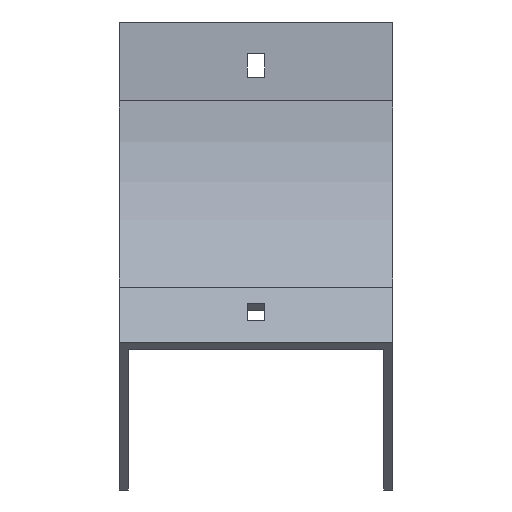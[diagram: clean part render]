
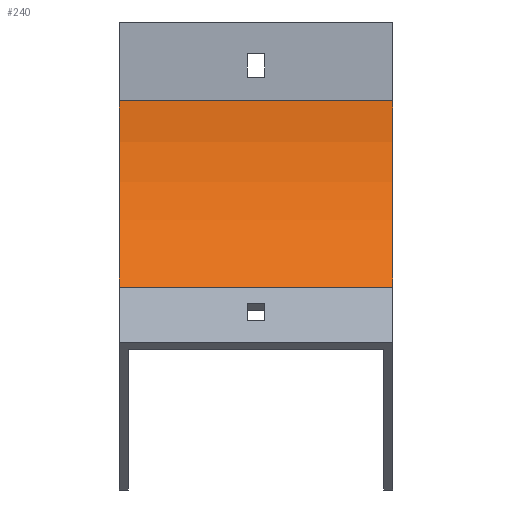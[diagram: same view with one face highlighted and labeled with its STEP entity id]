
A CAD part, front view. The second image highlights one B-rep face of the part: STEP entity #240.
In plain terms, the highlighted cylindrical face has radius 100 mm (diameter 200 mm), a partial arc.
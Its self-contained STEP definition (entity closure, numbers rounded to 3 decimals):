
#202 = DIRECTION ( 'NONE',  ( -1., 0., 0. ) ) ;
#236 = CARTESIAN_POINT ( 'NONE',  ( 52., -29.289, -100.711 ) ) ;
#240 = ADVANCED_FACE ( 'NONE', ( #360 ), #495, .F. ) ;
#360 = FACE_OUTER_BOUND ( 'NONE', #1562, .T. ) ;
#367 = DIRECTION ( 'NONE',  ( 0., 0., 1. ) ) ;
#371 = ORIENTED_EDGE ( 'NONE', *, *, #1769, .T. ) ;
#390 = CARTESIAN_POINT ( 'NONE',  ( 52., -29.289, -100.711 ) ) ;
#478 = CARTESIAN_POINT ( 'NONE',  ( -52., -100., -30. ) ) ;
#495 = CYLINDRICAL_SURFACE ( 'NONE', #1290, 100. ) ;
#533 = VERTEX_POINT ( 'NONE', #878 ) ;
#538 = LINE ( 'NONE', #390, #852 ) ;
#586 = ORIENTED_EDGE ( 'NONE', *, *, #1757, .T. ) ;
#624 = AXIS2_PLACEMENT_3D ( 'NONE', #1332, #1343, #1499 ) ;
#625 = CARTESIAN_POINT ( 'NONE',  ( 52., 0., -30. ) ) ;
#673 = CARTESIAN_POINT ( 'NONE',  ( -52., 0., -30. ) ) ;
#832 = AXIS2_PLACEMENT_3D ( 'NONE', #478, #1526, #1535 ) ;
#852 = VECTOR ( 'NONE', #1427, 1000. ) ;
#878 = CARTESIAN_POINT ( 'NONE',  ( 52., 0., -30. ) ) ;
#931 = LINE ( 'NONE', #625, #1946 ) ;
#1071 = VERTEX_POINT ( 'NONE', #236 ) ;
#1112 = CIRCLE ( 'NONE', #832, 100. ) ;
#1180 = EDGE_CURVE ( 'NONE', #533, #1071, #1866, .T. ) ;
#1201 = ORIENTED_EDGE ( 'NONE', *, *, #1885, .F. ) ;
#1229 = VERTEX_POINT ( 'NONE', #673 ) ;
#1269 = CARTESIAN_POINT ( 'NONE',  ( -52., -29.289, -100.711 ) ) ;
#1290 = AXIS2_PLACEMENT_3D ( 'NONE', #1394, #202, #367 ) ;
#1332 = CARTESIAN_POINT ( 'NONE',  ( 52., -100., -30. ) ) ;
#1343 = DIRECTION ( 'NONE',  ( -1., 0., 0. ) ) ;
#1375 = DIRECTION ( 'NONE',  ( -1., 0., 0. ) ) ;
#1394 = CARTESIAN_POINT ( 'NONE',  ( 52., -100., -30. ) ) ;
#1427 = DIRECTION ( 'NONE',  ( -1., 0., 0. ) ) ;
#1499 = DIRECTION ( 'NONE',  ( 0., 0., 1. ) ) ;
#1511 = VERTEX_POINT ( 'NONE', #1269 ) ;
#1526 = DIRECTION ( 'NONE',  ( -1., 0., 0. ) ) ;
#1535 = DIRECTION ( 'NONE',  ( 0., 0., 1. ) ) ;
#1562 = EDGE_LOOP ( 'NONE', ( #371, #1201, #1948, #586 ) ) ;
#1757 = EDGE_CURVE ( 'NONE', #533, #1229, #931, .T. ) ;
#1769 = EDGE_CURVE ( 'NONE', #1229, #1511, #1112, .T. ) ;
#1866 = CIRCLE ( 'NONE', #624, 100. ) ;
#1885 = EDGE_CURVE ( 'NONE', #1071, #1511, #538, .T. ) ;
#1946 = VECTOR ( 'NONE', #1375, 1000. ) ;
#1948 = ORIENTED_EDGE ( 'NONE', *, *, #1180, .F. ) ;
